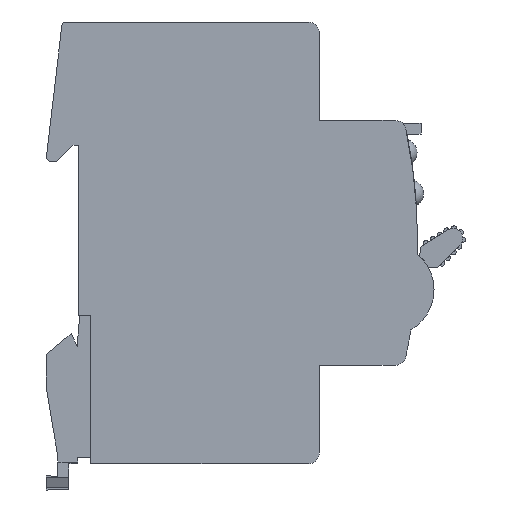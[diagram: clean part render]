
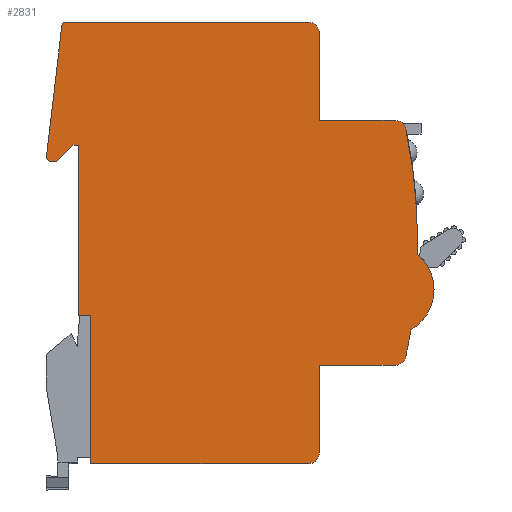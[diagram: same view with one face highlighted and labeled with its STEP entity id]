
A CAD part, left-side view. The second image highlights one B-rep face of the part: STEP entity #2831.
In plain terms, the highlighted planar face has unit normal (-1, 0, 0).
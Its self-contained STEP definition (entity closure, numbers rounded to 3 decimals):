
#114=CIRCLE('',#3136,8.5);
#138=CIRCLE('',#3203,0.8);
#140=CIRCLE('',#3207,0.8);
#142=CIRCLE('',#3217,2.);
#144=CIRCLE('',#3222,2.);
#146=CIRCLE('',#3225,101.602);
#147=CIRCLE('',#3226,101.602);
#149=CIRCLE('',#3229,2.);
#151=CIRCLE('',#3234,2.);
#360=FACE_OUTER_BOUND('',#543,.T.);
#543=EDGE_LOOP('',(#2343,#2344,#2345,#2346,#2347,#2348,#2349,#2350,#2351,
#2352,#2353,#2354,#2355,#2356,#2357,#2358,#2359,#2360,#2361,#2362,#2363,
#2364));
#783=LINE('',#4811,#1070);
#788=LINE('',#4824,#1075);
#792=LINE('',#4836,#1079);
#795=LINE('',#4842,#1082);
#798=LINE('',#4848,#1085);
#801=LINE('',#4854,#1088);
#804=LINE('',#4860,#1091);
#807=LINE('',#4866,#1094);
#810=LINE('',#4872,#1097);
#814=LINE('',#4884,#1101);
#817=LINE('',#4890,#1104);
#824=LINE('',#4916,#1111);
#827=LINE('',#4922,#1114);
#1070=VECTOR('',#3803,304.8);
#1075=VECTOR('',#3816,304.8);
#1079=VECTOR('',#3828,304.8);
#1082=VECTOR('',#3833,304.8);
#1085=VECTOR('',#3838,304.8);
#1088=VECTOR('',#3843,304.8);
#1091=VECTOR('',#3848,304.8);
#1094=VECTOR('',#3853,304.8);
#1097=VECTOR('',#3858,304.8);
#1101=VECTOR('',#3870,304.8);
#1104=VECTOR('',#3875,304.8);
#1111=VECTOR('',#3904,304.8);
#1114=VECTOR('',#3909,304.8);
#1264=VERTEX_POINT('',#4537);
#1265=VERTEX_POINT('',#4538);
#1330=VERTEX_POINT('',#4808);
#1331=VERTEX_POINT('',#4810);
#1333=VERTEX_POINT('',#4816);
#1335=VERTEX_POINT('',#4822);
#1337=VERTEX_POINT('',#4828);
#1339=VERTEX_POINT('',#4834);
#1341=VERTEX_POINT('',#4840);
#1343=VERTEX_POINT('',#4846);
#1345=VERTEX_POINT('',#4852);
#1347=VERTEX_POINT('',#4858);
#1349=VERTEX_POINT('',#4864);
#1351=VERTEX_POINT('',#4870);
#1353=VERTEX_POINT('',#4876);
#1355=VERTEX_POINT('',#4882);
#1357=VERTEX_POINT('',#4888);
#1359=VERTEX_POINT('',#4894);
#1361=VERTEX_POINT('',#4901);
#1363=VERTEX_POINT('',#4908);
#1365=VERTEX_POINT('',#4914);
#1367=VERTEX_POINT('',#4920);
#1561=EDGE_CURVE('',#1264,#1265,#114,.T.);
#1658=EDGE_CURVE('',#1331,#1330,#783,.T.);
#1662=EDGE_CURVE('',#1330,#1333,#138,.T.);
#1665=EDGE_CURVE('',#1333,#1335,#788,.T.);
#1668=EDGE_CURVE('',#1335,#1337,#140,.T.);
#1671=EDGE_CURVE('',#1337,#1339,#792,.T.);
#1674=EDGE_CURVE('',#1339,#1341,#795,.T.);
#1677=EDGE_CURVE('',#1341,#1343,#798,.T.);
#1680=EDGE_CURVE('',#1343,#1345,#801,.T.);
#1683=EDGE_CURVE('',#1345,#1347,#804,.T.);
#1686=EDGE_CURVE('',#1347,#1349,#807,.T.);
#1689=EDGE_CURVE('',#1349,#1351,#810,.T.);
#1692=EDGE_CURVE('',#1351,#1353,#142,.T.);
#1695=EDGE_CURVE('',#1353,#1355,#814,.T.);
#1698=EDGE_CURVE('',#1355,#1357,#817,.T.);
#1701=EDGE_CURVE('',#1357,#1359,#144,.T.);
#1705=EDGE_CURVE('',#1265,#1361,#146,.T.);
#1706=EDGE_CURVE('',#1359,#1264,#147,.T.);
#1709=EDGE_CURVE('',#1361,#1363,#149,.T.);
#1712=EDGE_CURVE('',#1363,#1365,#824,.T.);
#1715=EDGE_CURVE('',#1365,#1367,#827,.T.);
#1717=EDGE_CURVE('',#1367,#1331,#151,.T.);
#2343=ORIENTED_EDGE('',*,*,#1658,.T.);
#2344=ORIENTED_EDGE('',*,*,#1662,.T.);
#2345=ORIENTED_EDGE('',*,*,#1665,.T.);
#2346=ORIENTED_EDGE('',*,*,#1668,.T.);
#2347=ORIENTED_EDGE('',*,*,#1671,.T.);
#2348=ORIENTED_EDGE('',*,*,#1674,.T.);
#2349=ORIENTED_EDGE('',*,*,#1677,.T.);
#2350=ORIENTED_EDGE('',*,*,#1680,.T.);
#2351=ORIENTED_EDGE('',*,*,#1683,.T.);
#2352=ORIENTED_EDGE('',*,*,#1686,.T.);
#2353=ORIENTED_EDGE('',*,*,#1689,.T.);
#2354=ORIENTED_EDGE('',*,*,#1692,.T.);
#2355=ORIENTED_EDGE('',*,*,#1695,.T.);
#2356=ORIENTED_EDGE('',*,*,#1698,.T.);
#2357=ORIENTED_EDGE('',*,*,#1701,.T.);
#2358=ORIENTED_EDGE('',*,*,#1706,.T.);
#2359=ORIENTED_EDGE('',*,*,#1561,.T.);
#2360=ORIENTED_EDGE('',*,*,#1705,.T.);
#2361=ORIENTED_EDGE('',*,*,#1709,.T.);
#2362=ORIENTED_EDGE('',*,*,#1712,.T.);
#2363=ORIENTED_EDGE('',*,*,#1715,.T.);
#2364=ORIENTED_EDGE('',*,*,#1717,.T.);
#2678=PLANE('',#3235);
#2831=ADVANCED_FACE('',(#360),#2678,.T.);
#3136=AXIS2_PLACEMENT_3D('',#4539,#3601,#3602);
#3203=AXIS2_PLACEMENT_3D('',#4818,#3810,#3811);
#3207=AXIS2_PLACEMENT_3D('',#4830,#3822,#3823);
#3217=AXIS2_PLACEMENT_3D('',#4878,#3864,#3865);
#3222=AXIS2_PLACEMENT_3D('',#4896,#3881,#3882);
#3225=AXIS2_PLACEMENT_3D('',#4903,#3889,#3890);
#3226=AXIS2_PLACEMENT_3D('',#4904,#3891,#3892);
#3229=AXIS2_PLACEMENT_3D('',#4910,#3898,#3899);
#3234=AXIS2_PLACEMENT_3D('',#4925,#3914,#3915);
#3235=AXIS2_PLACEMENT_3D('',#4926,#3916,#3917);
#3601=DIRECTION('center_axis',(-1.,0.,0.));
#3602=DIRECTION('ref_axis',(0.,-1.,0.));
#3803=DIRECTION('',(0.,1.,0.));
#3810=DIRECTION('center_axis',(-1.,0.,0.));
#3811=DIRECTION('ref_axis',(0.,-1.,0.));
#3816=DIRECTION('',(0.,0.117,-0.993));
#3822=DIRECTION('center_axis',(-1.,0.,0.));
#3823=DIRECTION('ref_axis',(0.,-1.,0.));
#3828=DIRECTION('',(0.,-1.,0.));
#3833=DIRECTION('',(0.,-0.707,0.707));
#3838=DIRECTION('',(0.,-1.,0.));
#3843=DIRECTION('',(0.,0.,-1.));
#3848=DIRECTION('',(0.,-1.,0.));
#3853=DIRECTION('',(0.,0.,-1.));
#3858=DIRECTION('',(0.,-1.,0.));
#3864=DIRECTION('center_axis',(-1.,0.,0.));
#3865=DIRECTION('ref_axis',(0.,-1.,0.));
#3870=DIRECTION('',(0.,0.,1.));
#3875=DIRECTION('',(0.,-1.,0.));
#3881=DIRECTION('center_axis',(-1.,0.,0.));
#3882=DIRECTION('ref_axis',(0.,-1.,0.));
#3889=DIRECTION('center_axis',(-1.,0.,0.));
#3890=DIRECTION('ref_axis',(0.,-1.,0.));
#3891=DIRECTION('center_axis',(-1.,0.,0.));
#3892=DIRECTION('ref_axis',(0.,-1.,0.));
#3898=DIRECTION('center_axis',(-1.,0.,0.));
#3899=DIRECTION('ref_axis',(0.,-1.,0.));
#3904=DIRECTION('',(0.,1.,0.));
#3909=DIRECTION('',(0.,0.,1.));
#3914=DIRECTION('center_axis',(-1.,0.,0.));
#3915=DIRECTION('ref_axis',(0.,-1.,0.));
#3916=DIRECTION('center_axis',(-1.,0.,0.));
#3917=DIRECTION('ref_axis',(0.,0.,1.));
#4537=CARTESIAN_POINT('',(282.2,39.256,-15.977));
#4538=CARTESIAN_POINT('',(282.2,38.021,-2.107));
#4539=CARTESIAN_POINT('Origin',(282.2,43.495,-8.61));
#4808=CARTESIAN_POINT('',(282.2,102.289,40.35));
#4810=CARTESIAN_POINT('',(282.2,58.,40.35));
#4811=CARTESIAN_POINT('',(282.2,58.,40.35));
#4816=CARTESIAN_POINT('',(282.2,103.083,39.643));
#4818=CARTESIAN_POINT('Origin',(282.2,102.289,39.55));
#4822=CARTESIAN_POINT('',(282.2,105.895,15.743));
#4824=CARTESIAN_POINT('',(282.2,103.083,39.643));
#4828=CARTESIAN_POINT('',(282.2,105.1,14.85));
#4830=CARTESIAN_POINT('Origin',(282.2,105.1,15.65));
#4834=CARTESIAN_POINT('',(282.2,104.,14.85));
#4836=CARTESIAN_POINT('',(282.2,105.1,14.85));
#4840=CARTESIAN_POINT('',(282.2,101.05,17.8));
#4842=CARTESIAN_POINT('',(282.2,104.,14.85));
#4846=CARTESIAN_POINT('',(282.2,100.,17.8));
#4848=CARTESIAN_POINT('',(282.2,101.05,17.8));
#4852=CARTESIAN_POINT('',(282.2,100.,-13.35));
#4854=CARTESIAN_POINT('',(282.2,100.,17.8));
#4858=CARTESIAN_POINT('',(282.2,97.8,-13.35));
#4860=CARTESIAN_POINT('',(282.2,100.,-13.35));
#4864=CARTESIAN_POINT('',(282.2,97.8,-40.45));
#4866=CARTESIAN_POINT('',(282.2,97.8,-13.35));
#4870=CARTESIAN_POINT('',(282.2,58.,-40.45));
#4872=CARTESIAN_POINT('',(282.2,97.8,-40.45));
#4876=CARTESIAN_POINT('',(282.2,56.,-38.45));
#4878=CARTESIAN_POINT('Origin',(282.2,58.,-38.45));
#4882=CARTESIAN_POINT('',(282.2,56.,-22.45));
#4884=CARTESIAN_POINT('',(282.2,56.,-38.45));
#4888=CARTESIAN_POINT('',(282.2,42.111,-22.45));
#4890=CARTESIAN_POINT('',(282.2,56.,-22.45));
#4894=CARTESIAN_POINT('',(282.2,40.154,-20.86));
#4896=CARTESIAN_POINT('Origin',(282.2,42.111,-20.45));
#4901=CARTESIAN_POINT('',(282.2,40.154,20.76));
#4903=CARTESIAN_POINT('Origin',(282.2,139.602,-0.05));
#4904=CARTESIAN_POINT('Origin',(282.2,139.602,-0.05));
#4908=CARTESIAN_POINT('',(282.2,42.111,22.35));
#4910=CARTESIAN_POINT('Origin',(282.2,42.111,20.35));
#4914=CARTESIAN_POINT('',(282.2,56.,22.35));
#4916=CARTESIAN_POINT('',(282.2,42.111,22.35));
#4920=CARTESIAN_POINT('',(282.2,56.,38.35));
#4922=CARTESIAN_POINT('',(282.2,56.,22.35));
#4925=CARTESIAN_POINT('Origin',(282.2,58.,38.35));
#4926=CARTESIAN_POINT('Origin',(282.2,56.,38.35));
